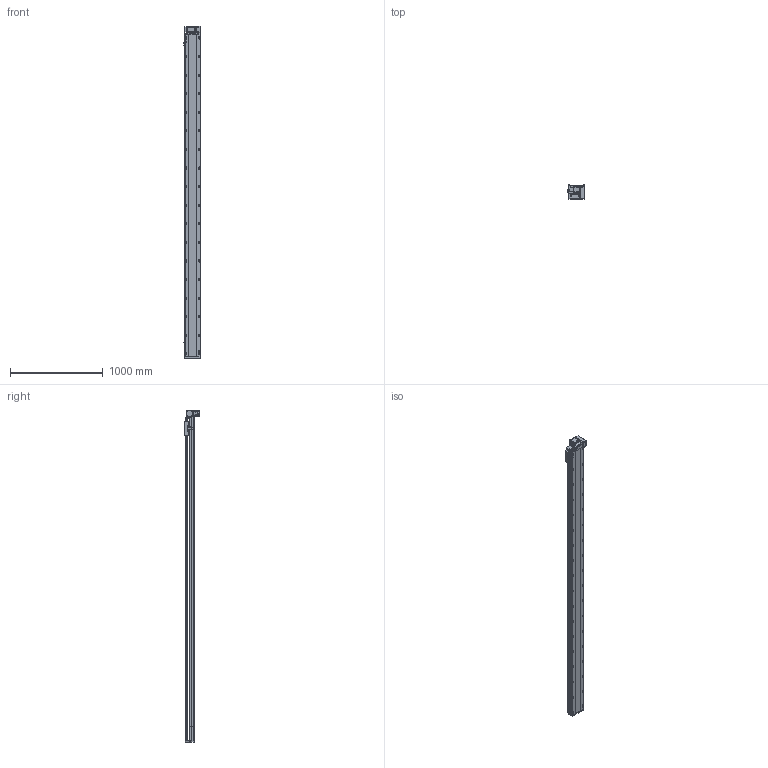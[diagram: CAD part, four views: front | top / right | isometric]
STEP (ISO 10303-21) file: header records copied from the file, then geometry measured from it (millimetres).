
FILE_DESCRIPTION (( 'STEP AP214' ), '1' );
FILE_NAME ('RTB17S-XX-3200-RM-M40-C4.STEP', '2025-12-11T08:36:51', ( '' ), ( '' ), 'SwSTEP 2.0', 'SolidWorks 2018', '' );
FILE_SCHEMA (( 'AUTOMOTIVE_DESIGN' ));
Length unit declared in the file: millimetre
Products named in the file (14): RTB17S-L-001耜醱啣^RTB17S-XX-XX-RM-M40-C4; RTB14-L-017P^RTB17S-RM-々湍釱蚾饜-400W_RTB17S-XX-XX-RM-M40-C4; RTB14-L-008-M20--萇儂啣^RTB17S-RM-々湍釱蚾饜-400W_RTB17S-XX-XX-RM-M40-C4; RTB17S-RM-々湍釱蚾饜-400W^RTB17S-XX-XX-RM-M40-C4; RTB17S-L-004佪裝蹟譫蟀諉釱^RTB17S-XX-XX-RM-M40-C4; RTB14-L-018P^RTB17S-RM-々湍釱蚾饜-400W_RTB17S-XX-XX-RM-M40-C4; RTB14-L-005P--轴承塑胶压盖^RTB17S-RM-皮带座装配-400W_RTB17S-XX-XX-RM-M40-C4; RTB17S-L-014-T20--々湍釱^RTB17S-RM-々湍釱蚾饜-400W_RTB17S-XX-XX-RM-M40-C4; RTB17-R-011菁釱^RTB17S-XX-XX-RM-M40-C4; OMRON EE-SX672 传感器^RTB17S-XX-XX-RM-M40-C4; RTB17S-L-007奻裔^RTB17S-XX-XX-RM-M40-C4; RTH13-BL-012覜茼え俋离^RTB17S-XX-XX-RM-M40-C4; 400W侜督萇儂^RTB17S-XX-XX-RM-M40-C4; RTB17S-XX-3200-RM-M40-C4
Assembly tree (16 placements, depth 3):
  RTB17S-XX-3200-RM-M40-C4
    RTB17-R-011菁釱^RTB17S-XX-XX-RM-M40-C4
    RTB17S-L-007奻裔^RTB17S-XX-XX-RM-M40-C4
    OMRON EE-SX672 传感器^RTB17S-XX-XX-RM-M40-C4  x3
    RTB17S-L-001耜醱啣^RTB17S-XX-XX-RM-M40-C4
    400W侜督萇儂^RTB17S-XX-XX-RM-M40-C4
    RTB17S-L-004佪裝蹟譫蟀諉釱^RTB17S-XX-XX-RM-M40-C4
    RTH13-BL-012覜茼え俋离^RTB17S-XX-XX-RM-M40-C4
    RTB17S-RM-々湍釱蚾饜-400W^RTB17S-XX-XX-RM-M40-C4
      RTB17S-L-014-T20--々湍釱^RTB17S-RM-々湍釱蚾饜-400W_RTB17S-XX-XX-RM-M40-C4
      RTB14-L-005P--轴承塑胶压盖^RTB17S-RM-皮带座装配-400W_RTB17S-XX-XX-RM-M40-C4
      RTB14-L-008-M20--萇儂啣^RTB17S-RM-々湍釱蚾饜-400W_RTB17S-XX-XX-RM-M40-C4
      RTB14-L-017P^RTB17S-RM-々湍釱蚾饜-400W_RTB17S-XX-XX-RM-M40-C4  x2
      RTB14-L-018P^RTB17S-RM-々湍釱蚾饜-400W_RTB17S-XX-XX-RM-M40-C4
Bounding box: 183.5 x 156.5 x 3572.5 mm (x, y, z)
Volume: 30317776.9 mm3; surface area: 3453606.6 mm2
Topology: 15 solids, 15 shells, 2381 faces, 6681 edges, 4365 vertices
Faces by surface type: plane 1090, cylinder 843, bspline 301, cone 139, torus 8
Entity records: 71081 total; most frequent: CARTESIAN_POINT 20286, ORIENTED_EDGE 10206, DIRECTION 9386, EDGE_CURVE 5103, VERTEX_POINT 3353, AXIS2_PLACEMENT_3D 3283, LINE 2820, VECTOR 2820
